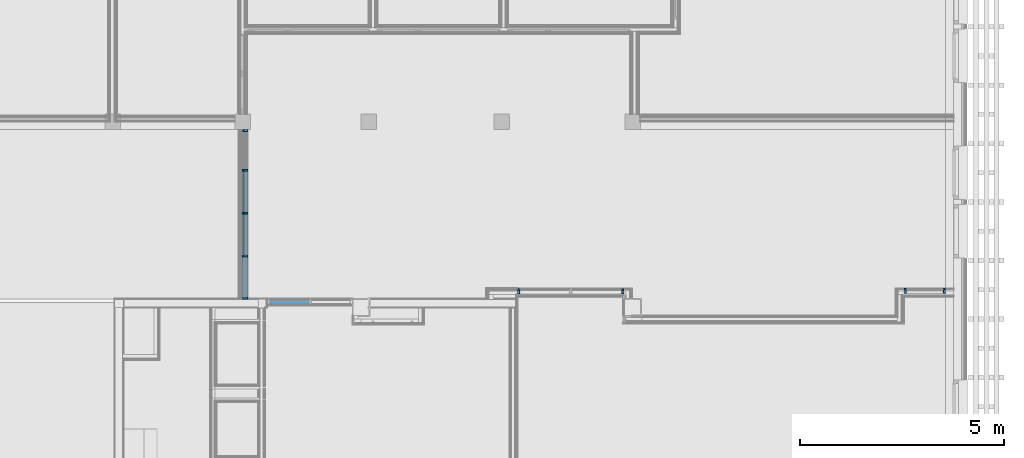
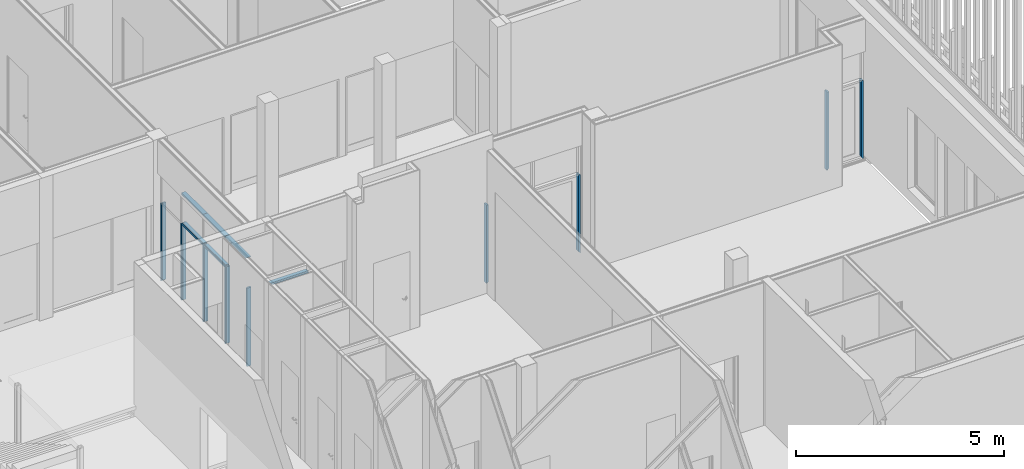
# One storey, part 30 of 260: 15 members, 4 elements without a shape of their own.
"""IFC2X3 building model written with IfcOpenShell, lengths in millimetres."""

from ifc_helpers import new_model, entity, si_unit, converted_unit, derived_unit, money_unit, direction, frame, origin_with_axes, place, context, subcontext, project, spatial, faceted_brep, source, transform, mapped, material, type_object, element, aggregate, save


model = new_model("IFC2X3")

# Units and contexts
model_context = context("Model", 3, precision=0.01, world=origin_with_axes(), true_north=direction((0.0, 1.0)))
body_context = subcontext(model_context, "Body", "Model", "MODEL_VIEW")
ifc_project = project(units=[si_unit("LENGTHUNIT", "METRE", prefix="MILLI"), si_unit("AREAUNIT", "SQUARE_METRE"), si_unit("VOLUMEUNIT", "CUBIC_METRE"), converted_unit("PLANEANGLEUNIT", "DEGREE", entity("IfcPlaneAngleMeasure", 0.0174532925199), si_unit("PLANEANGLEUNIT", "RADIAN"), dimensions=[0, 0, 0, 0, 0, 0, 0]), money_unit("EUR"), converted_unit("TIMEUNIT", "Year", entity("IfcTimeMeasure", 31556926.0), si_unit("TIMEUNIT", "SECOND"), dimensions=[0, 0, 1, 0, 0, 0, 0]), si_unit("MASSUNIT", "GRAM", prefix="KILO"), si_unit("THERMODYNAMICTEMPERATUREUNIT", "DEGREE_CELSIUS"), si_unit("LUMINOUSINTENSITYUNIT", "LUMEN"), si_unit("ENERGYUNIT", "JOULE", prefix="MEGA"), derived_unit("THERMALCONDUCTANCEUNIT", [(si_unit("POWERUNIT", "WATT"), 1), (si_unit("LENGTHUNIT", "METRE"), -1), (si_unit("THERMODYNAMICTEMPERATUREUNIT", "KELVIN"), -1)]), derived_unit("SPECIFICHEATCAPACITYUNIT", [(si_unit("ENERGYUNIT", "JOULE"), 1), (si_unit("MASSUNIT", "GRAM", prefix="KILO"), -1), (si_unit("THERMODYNAMICTEMPERATUREUNIT", "KELVIN"), -1)]), derived_unit("MASSDENSITYUNIT", [(si_unit("MASSUNIT", "GRAM", prefix="KILO"), 1), (si_unit("VOLUMEUNIT", "CUBIC_METRE"), -1)])], contexts=[model_context])

# Site, building, storey
site_placement = place(None, origin_with_axes())
site = spatial("IfcSite", under=ifc_project, at=site_placement, Name="Kolde pst 67a", CompositionType="ELEMENT")
building_placement = place(site_placement, origin_with_axes())
building = spatial("IfcBuilding", under=site, at=building_placement, Name="Riigigümnaasium", CompositionType="ELEMENT")
storey_placement = place(building_placement, origin_with_axes())
storey = spatial("IfcBuildingStorey", under=building, at=storey_placement, Name="1. korrus", CompositionType="ELEMENT", Elevation=0.0)

# Curtain wall, member
curtain_wall_type = type_object("IfcCurtainWallType", Name="Curtain Wall Type", PredefinedType="NOTDEFINED")
curtain_wall_1_placement = place(storey_placement, frame((67073.6436674, 24969.9980242, -4.39663916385e-06), z_axis=(0.0, 0.0, 1.0), x_axis=(1.0, 0.0, 0.0)))
curtain_wall_1 = element("IfcCurtainWall", 1, at=curtain_wall_1_placement, inside=storey, type_object=curtain_wall_type, Name="KLAASSEIN")
ifc_material = material(Name="_METALL - alumiinium")
member_type_1 = type_object("IfcMemberType", Name="Boundary Frame 50 x 120", PredefinedType="MEMBER")
shared_shape_1 = source(origin_with_axes(), body_context, "Body", "Brep", [
    faceted_brep([(30.0, 10.0, 30.0), (30.0, 10.0, 2300.0), (30.0, -10.0, 2300.0), (30.0, -10.0, 30.0), (20.0, 10.0, 20.0), (20.0, 10.0, 2300.0), (20.0, -10.0, 2300.0), (20.0, -10.0, 20.0)], [[[0, 1, 2, 3]], [[4, 5, 1, 0]], [[2, 1, 5, 6]], [[3, 2, 6, 7]], [[3, 7, 4, 0]], [[7, 6, 5, 4]]]),
    faceted_brep([(20.0, 10.0, 20.0), (20.0, 10.0, 2300.0), (20.0, -10.0, 2300.0), (20.0, -10.0, 20.0), (0.0, 10.0, 0.0), (0.0, 10.0, 2300.0), (0.0, -10.0, 2300.0), (0.0, -10.0, 0.0)], [[[0, 1, 2, 3]], [[4, 5, 1, 0]], [[2, 1, 5, 6]], [[3, 2, 6, 7]], [[3, 7, 4, 0]], [[7, 6, 5, 4]]]),
    faceted_brep([(50.0, -10.0, 50.0), (50.0, -10.0, 2300.0), (50.0, -100.0, 2300.0), (50.0, -100.0, 50.0), (0.0, -10.0, 0.0), (0.0, -10.0, 2300.0), (0.0, -100.0, 2300.0), (0.0, -100.0, 0.0)], [[[0, 1, 2, 3]], [[4, 5, 1, 0]], [[2, 1, 5, 6]], [[3, 2, 6, 7]], [[3, 7, 4, 0]], [[7, 6, 5, 4]]]),
    faceted_brep([(0.0, 10.0, 0.0), (0.0, 10.0, 2300.0), (0.0, 20.0, 2300.0), (0.0, 20.0, 0.0), (50.0, 10.0, 50.0), (50.0, 10.0, 2300.0), (50.0, 20.0, 2300.0), (50.0, 20.0, 50.0)], [[[0, 1, 2, 3]], [[4, 5, 1, 0]], [[2, 1, 5, 6]], [[3, 2, 6, 7]], [[3, 7, 4, 0]], [[7, 6, 5, 4]]]),
])
member_1_placement = place(curtain_wall_1_placement, frame((0.0, -525.0, -5.61735502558e-06), z_axis=(0.0, 0.0, 1.0), x_axis=(0.0, -1.0, 0.0)))
member_1 = element("IfcMember", 2, at=member_1_placement, type_object=member_type_1, material=ifc_material, Name="RF RAAM SERV-019", ObjectType="MEMBER", context=body_context, shape_type="MappedRepresentation", body=[
    mapped(shared_shape_1, transform((0.0, 0.0, 0.0), x_axis=(-1.0, 0.0, 0.0), y_axis=(0.0, -1.0, 0.0), z_axis=(0.0, 0.0, 1.0))),
])

curtain_wall_2_placement = place(storey_placement, frame((75080.0012187, 24675.0981117, -4.39663905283e-06), z_axis=(0.0, 0.0, 1.0), x_axis=(1.0, 0.0, 0.0)))
curtain_wall_2 = element("IfcCurtainWall", 3, at=curtain_wall_2_placement, inside=storey, type_object=curtain_wall_type, Name="KLAASSEIN")
member_2_placement = place(curtain_wall_2_placement, frame((-1300.00168867, 0.0, 0.0), z_axis=(0.0, 0.0, 1.0), x_axis=(1.0, 0.0, 0.0)))
member_2 = element("IfcMember", 4, at=member_2_placement, type_object=member_type_1, material=ifc_material, Name="RF RAAM SERV-099", ObjectType="MEMBER", context=body_context, shape_type="MappedRepresentation", body=[
    mapped(shared_shape_1, transform((0.0, 0.0, 0.0))),
])

curtain_wall_3_placement = place(storey_placement, frame((83735.0006955, 24688.0768619, -4.19329628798e-05), z_axis=(0.0, 0.0, 1.0), x_axis=(1.0, 0.0, 0.0)))
curtain_wall_3 = element("IfcCurtainWall", 5, at=curtain_wall_3_placement, inside=storey, type_object=curtain_wall_type, Name="KLAASSEIN")
member_3_placement = place(curtain_wall_3_placement, frame((-504.998632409, 0.0, 3.7536323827e-05), z_axis=(0.0, 0.0, 1.0), x_axis=(1.0, 0.0, 0.0)))
member_3 = element("IfcMember", 6, at=member_3_placement, type_object=member_type_1, material=ifc_material, Name="RF RAAM SERV-098", ObjectType="MEMBER", context=body_context, shape_type="MappedRepresentation", body=[
    mapped(shared_shape_1, transform((0.0, 0.0, 0.0))),
])

# Member
member_type_2 = type_object("IfcMemberType", Name="Transom Frame 50 x 125", PredefinedType="MEMBER")
shared_shape_2 = source(origin_with_axes(), body_context, "Body", "Brep", [
    faceted_brep([(-5.0, 10.0, 25.0), (-5.0, -10.0, 25.0), (-5.0, -10.0, 1025.0), (-5.0, 10.0, 1025.0), (5.0, 10.0, 25.0), (5.0, -10.0, 25.0), (5.0, -10.0, 1025.0), (5.0, 10.0, 1025.0)], [[[0, 1, 2, 3]], [[1, 0, 4, 5]], [[1, 5, 6, 2]], [[2, 6, 7, 3]], [[4, 0, 3, 7]], [[5, 4, 7, 6]]]),
    faceted_brep([(-25.0, -10.0, 25.0), (-25.0, -100.0, 25.0), (-25.0, -100.0, 1025.0), (-25.0, -10.0, 1025.0), (25.0, -10.0, 25.0), (25.0, -100.0, 25.0), (25.0, -100.0, 1025.0), (25.0, -10.0, 1025.0)], [[[0, 1, 2, 3]], [[1, 0, 4, 5]], [[1, 5, 6, 2]], [[2, 6, 7, 3]], [[4, 0, 3, 7]], [[5, 4, 7, 6]]]),
    faceted_brep([(25.0, 10.0, 25.0), (25.0, 25.0, 25.0), (25.0, 25.0, 1025.0), (25.0, 10.0, 1025.0), (-25.0, 10.0, 25.0), (-25.0, 25.0, 25.0), (-25.0, 25.0, 1025.0), (-25.0, 10.0, 1025.0)], [[[0, 1, 2, 3]], [[1, 0, 4, 5]], [[1, 5, 6, 2]], [[2, 6, 7, 3]], [[4, 0, 3, 7]], [[5, 4, 7, 6]]]),
])
member_4_placement = place(curtain_wall_1_placement, frame((0.0, 525.0, 2299.99999438), z_axis=(0.0, 1.0, 0.0), x_axis=(0.0, 0.0, 1.0)))
member_4 = element("IfcMember", 7, at=member_4_placement, type_object=member_type_2, material=ifc_material, Name="RF RAAM HOR-371", ObjectType="MEMBER", context=body_context, shape_type="MappedRepresentation", body=[
    mapped(shared_shape_2, transform((0.0, 0.0, 0.0), x_axis=(-1.0, 0.0, 0.0), y_axis=(0.0, -1.0, 0.0), z_axis=(0.0, 0.0, 1.0))),
])

member_5_placement = place(curtain_wall_1_placement, frame((0.0, 1575.0, 2299.99999438), z_axis=(0.0, 1.0, 0.0), x_axis=(0.0, 0.0, 1.0)))
member_5 = element("IfcMember", 8, at=member_5_placement, type_object=member_type_2, material=ifc_material, Name="RF RAAM HOR-370", ObjectType="MEMBER", context=body_context, shape_type="MappedRepresentation", body=[
    mapped(shared_shape_2, transform((0.0, 0.0, 0.0), x_axis=(-1.0, 0.0, 0.0), y_axis=(0.0, -1.0, 0.0), z_axis=(0.0, 0.0, 1.0))),
])

member_type_3 = type_object("IfcMemberType", Name="Mullion Frame 50 x 125", PredefinedType="MEMBER")
shared_shape_3 = source(origin_with_axes(), body_context, "Body", "Brep", [
    faceted_brep([(-5.0, 10.0, 50.0), (-5.0, -10.0, 50.0), (-5.0, -10.0, 2300.0), (-5.0, 10.0, 2300.0), (5.0, 10.0, 50.0), (5.0, -10.0, 50.0), (5.0, -10.0, 2300.0), (5.0, 10.0, 2300.0)], [[[0, 1, 2, 3]], [[1, 0, 4, 5]], [[1, 5, 6, 2]], [[2, 6, 7, 3]], [[4, 0, 3, 7]], [[5, 4, 7, 6]]]),
    faceted_brep([(-25.0, -10.0, 50.0), (-25.0, -100.0, 50.0), (-25.0, -100.0, 2300.0), (-25.0, -10.0, 2300.0), (25.0, -10.0, 50.0), (25.0, -100.0, 50.0), (25.0, -100.0, 2300.0), (25.0, -10.0, 2300.0)], [[[0, 1, 2, 3]], [[1, 0, 4, 5]], [[1, 5, 6, 2]], [[2, 6, 7, 3]], [[4, 0, 3, 7]], [[5, 4, 7, 6]]]),
    faceted_brep([(25.0, 10.0, 50.0), (25.0, 25.0, 50.0), (25.0, 25.0, 2300.0), (25.0, 10.0, 2300.0), (-25.0, 10.0, 50.0), (-25.0, 25.0, 50.0), (-25.0, 25.0, 2300.0), (-25.0, 10.0, 2300.0)], [[[0, 1, 2, 3]], [[1, 0, 4, 5]], [[1, 5, 6, 2]], [[2, 6, 7, 3]], [[4, 0, 3, 7]], [[5, 4, 7, 6]]]),
])
member_6_placement = place(curtain_wall_1_placement, frame((0.0, 525.0, -5.61735502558e-06), z_axis=(0.0, 0.0, 1.0), x_axis=(0.0, -1.0, 0.0)))
member_6 = element("IfcMember", 9, at=member_6_placement, type_object=member_type_3, material=ifc_material, Name="RF RAAM VERT-294", ObjectType="MEMBER", context=body_context, shape_type="MappedRepresentation", body=[
    mapped(shared_shape_3, transform((0.0, 0.0, 0.0), x_axis=(-1.0, 0.0, 0.0), y_axis=(0.0, -1.0, 0.0), z_axis=(0.0, 0.0, 1.0))),
])

member_7_placement = place(curtain_wall_1_placement, frame((0.0, 1575.0, -5.61735502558e-06), z_axis=(0.0, 0.0, 1.0), x_axis=(0.0, -1.0, 0.0)))
member_7 = element("IfcMember", 10, at=member_7_placement, type_object=member_type_3, material=ifc_material, Name="RF RAAM VERT-295", ObjectType="MEMBER", context=body_context, shape_type="MappedRepresentation", body=[
    mapped(shared_shape_3, transform((0.0, 0.0, 0.0), x_axis=(-1.0, 0.0, 0.0), y_axis=(0.0, -1.0, 0.0), z_axis=(0.0, 0.0, 1.0))),
])

member_8_placement = place(curtain_wall_1_placement, frame((0.0, 2625.0, -5.61735502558e-06), z_axis=(0.0, 0.0, 1.0), x_axis=(0.0, -1.0, 0.0)))
member_8 = element("IfcMember", 11, at=member_8_placement, type_object=member_type_3, material=ifc_material, Name="RF RAAM VERT-340", ObjectType="MEMBER", context=body_context, shape_type="MappedRepresentation", body=[
    mapped(shared_shape_3, transform((0.0, 0.0, 0.0), x_axis=(-1.0, 0.0, 0.0), y_axis=(0.0, -1.0, 0.0), z_axis=(0.0, 0.0, 1.0))),
])

shared_shape_4 = source(origin_with_axes(), body_context, "Body", "Brep", [
    faceted_brep([(-30.0, 10.0, 30.0), (-30.0, -10.0, 30.0), (-30.0, -10.0, 2300.0), (-30.0, 10.0, 2300.0), (-20.0, 10.0, 20.0), (-20.0, -10.0, 20.0), (-20.0, -10.0, 2300.0), (-20.0, 10.0, 2300.0)], [[[0, 1, 2, 3]], [[1, 0, 4, 5]], [[1, 5, 6, 2]], [[2, 6, 7, 3]], [[4, 0, 3, 7]], [[5, 4, 7, 6]]]),
    faceted_brep([(-20.0, 10.0, 20.0), (-20.0, -10.0, 20.0), (-20.0, -10.0, 2300.0), (-20.0, 10.0, 2300.0), (0.0, 10.0, 0.0), (0.0, -10.0, 0.0), (0.0, -10.0, 2300.0), (0.0, 10.0, 2300.0)], [[[0, 1, 2, 3]], [[1, 0, 4, 5]], [[1, 5, 6, 2]], [[2, 6, 7, 3]], [[4, 0, 3, 7]], [[5, 4, 7, 6]]]),
    faceted_brep([(-50.0, -10.0, 50.0), (-50.0, -100.0, 50.0), (-50.0, -100.0, 2300.0), (-50.0, -10.0, 2300.0), (0.0, -10.0, 0.0), (0.0, -100.0, 0.0), (0.0, -100.0, 2300.0), (0.0, -10.0, 2300.0)], [[[0, 1, 2, 3]], [[1, 0, 4, 5]], [[1, 5, 6, 2]], [[2, 6, 7, 3]], [[4, 0, 3, 7]], [[5, 4, 7, 6]]]),
    faceted_brep([(0.0, 10.0, 0.0), (0.0, 20.0, 0.0), (0.0, 20.0, 2300.0), (0.0, 10.0, 2300.0), (-50.0, 10.0, 50.0), (-50.0, 20.0, 50.0), (-50.0, 20.0, 2300.0), (-50.0, 10.0, 2300.0)], [[[0, 1, 2, 3]], [[1, 0, 4, 5]], [[1, 5, 6, 2]], [[2, 6, 7, 3]], [[4, 0, 3, 7]], [[5, 4, 7, 6]]]),
])
member_9_placement = place(curtain_wall_1_placement, frame((0.0, 3620.0016397, -5.61735502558e-06), z_axis=(0.0, 0.0, 1.0), x_axis=(0.0, -1.0, 0.0)))
member_9 = element("IfcMember", 12, at=member_9_placement, type_object=member_type_1, material=ifc_material, Name="RF RAAM SERV-012", ObjectType="MEMBER", context=body_context, shape_type="MappedRepresentation", body=[
    mapped(shared_shape_4, transform((0.0, 0.0, 0.0), x_axis=(-1.0, 0.0, 0.0), y_axis=(0.0, -1.0, 0.0), z_axis=(0.0, 0.0, 1.0))),
])

member_10_placement = place(curtain_wall_2_placement, frame((1300.00084434, 0.0, 0.0), z_axis=(0.0, 0.0, 1.0), x_axis=(1.0, 0.0, 0.0)))
member_10 = element("IfcMember", 13, at=member_10_placement, type_object=member_type_1, material=ifc_material, Name="RF RAAM SERV-104", ObjectType="MEMBER", context=body_context, shape_type="MappedRepresentation", body=[
    mapped(shared_shape_4, transform((0.0, 0.0, 0.0))),
])

aggregate(curtain_wall_2, [member_10, member_2])

member_11_placement = place(curtain_wall_3_placement, frame((504.998632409, 0.0, 3.7536323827e-05), z_axis=(0.0, 0.0, 1.0), x_axis=(1.0, 0.0, 0.0)))
member_11 = element("IfcMember", 14, at=member_11_placement, type_object=member_type_1, material=ifc_material, Name="RF RAAM SERV-102", ObjectType="MEMBER", context=body_context, shape_type="MappedRepresentation", body=[
    mapped(shared_shape_4, transform((0.0, 0.0, 0.0))),
])

aggregate(curtain_wall_3, [member_11, member_3])

shared_shape_5 = source(origin_with_axes(), body_context, "Body", "Brep", [
    faceted_brep([(30.0, 10.0, 30.0), (30.0, 10.0, 1050.0), (30.0, -10.0, 1050.0), (30.0, -10.0, 30.0), (20.0, 10.0, 20.0), (20.0, 10.0, 1050.0), (20.0, -10.0, 1050.0), (20.0, -10.0, 20.0)], [[[0, 1, 2, 3]], [[4, 5, 1, 0]], [[2, 1, 5, 6]], [[3, 2, 6, 7]], [[3, 7, 4, 0]], [[7, 6, 5, 4]]]),
    faceted_brep([(20.0, 10.0, 20.0), (20.0, 10.0, 1050.0), (20.0, -10.0, 1050.0), (20.0, -10.0, 20.0), (0.0, 10.0, 0.0), (0.0, 10.0, 1050.0), (0.0, -10.0, 1050.0), (0.0, -10.0, 0.0)], [[[0, 1, 2, 3]], [[4, 5, 1, 0]], [[2, 1, 5, 6]], [[3, 2, 6, 7]], [[3, 7, 4, 0]], [[7, 6, 5, 4]]]),
    faceted_brep([(50.0, -10.0, 50.0), (50.0, -10.0, 1050.0), (50.0, -100.0, 1050.0), (50.0, -100.0, 50.0), (0.0, -10.0, 0.0), (0.0, -10.0, 1050.0), (0.0, -100.0, 1050.0), (0.0, -100.0, 0.0)], [[[0, 1, 2, 3]], [[4, 5, 1, 0]], [[2, 1, 5, 6]], [[3, 2, 6, 7]], [[3, 7, 4, 0]], [[7, 6, 5, 4]]]),
    faceted_brep([(0.0, 10.0, 0.0), (0.0, 10.0, 1050.0), (0.0, 20.0, 1050.0), (0.0, 20.0, 0.0), (50.0, 10.0, 50.0), (50.0, 10.0, 1050.0), (50.0, 20.0, 1050.0), (50.0, 20.0, 50.0)], [[[0, 1, 2, 3]], [[4, 5, 1, 0]], [[2, 1, 5, 6]], [[3, 2, 6, 7]], [[3, 7, 4, 0]], [[7, 6, 5, 4]]]),
])
member_12_placement = place(curtain_wall_1_placement, frame((0.0, -525.0, 3199.99999078), z_axis=(0.0, 1.0, 0.0), x_axis=(0.0, 0.0, 1.0)))
member_12 = element("IfcMember", 15, at=member_12_placement, type_object=member_type_1, material=ifc_material, Name="RF RAAM SERV-017", ObjectType="MEMBER", context=body_context, shape_type="MappedRepresentation", body=[
    mapped(shared_shape_5, transform((0.0, 0.0, 0.0), x_axis=(-1.0, 0.0, 0.0), y_axis=(0.0, -1.0, 0.0), z_axis=(0.0, 0.0, 1.0))),
])

# Curtain wall, member
curtain_wall_4_placement = place(storey_placement, frame((68175.8878955, 24430.0011103, -4.39663905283e-06), z_axis=(0.0, 0.0, 1.0), x_axis=(1.0, 0.0, 0.0)))
curtain_wall_4 = element("IfcCurtainWall", 16, at=curtain_wall_4_placement, inside=storey, type_object=curtain_wall_type, Name="KLAASSEIN")
member_13_placement = place(curtain_wall_4_placement, frame((-525.0, 0.000381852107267, 2300.0), z_axis=(1.0, -7.27337343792e-07, 0.0), x_axis=(0.0, 0.0, 1.0)))
member_13 = element("IfcMember", 17, at=member_13_placement, type_object=member_type_1, material=ifc_material, Name="RF RAAM SERV-061", ObjectType="MEMBER", context=body_context, shape_type="MappedRepresentation", body=[
    mapped(shared_shape_5, transform((0.0, 0.0, 0.0), x_axis=(-1.0, 0.0, 0.0), y_axis=(0.0, -1.0, 0.0), z_axis=(0.0, 0.0, 1.0))),
])
aggregate(curtain_wall_4, [member_13])

# Member
shared_shape_6 = source(origin_with_axes(), body_context, "Body", "Brep", [
    faceted_brep([(30.0, -10.0, 0.0), (30.0, 10.0, 0.0), (30.0, 10.0, 1050.0), (30.0, -10.0, 1050.0), (20.0, -10.0, 0.0), (20.0, 10.0, 0.0), (20.0, 10.0, 1050.0), (20.0, -10.0, 1050.0)], [[[0, 1, 2, 3]], [[0, 4, 5, 1]], [[1, 5, 6, 2]], [[3, 2, 6, 7]], [[4, 0, 3, 7]], [[5, 4, 7, 6]]]),
    faceted_brep([(20.0, -10.0, 0.0), (20.0, 10.0, 0.0), (20.0, 10.0, 1050.0), (20.0, -10.0, 1050.0), (0.0, -10.0, 0.0), (0.0, 10.0, 0.0), (0.0, 10.0, 1050.0), (0.0, -10.0, 1050.0)], [[[0, 1, 2, 3]], [[0, 4, 5, 1]], [[1, 5, 6, 2]], [[3, 2, 6, 7]], [[4, 0, 3, 7]], [[5, 4, 7, 6]]]),
    faceted_brep([(50.0, -100.0, 0.0), (50.0, -10.0, 0.0), (50.0, -10.0, 1050.0), (50.0, -100.0, 1050.0), (0.0, -100.0, 0.0), (0.0, -10.0, 0.0), (0.0, -10.0, 1050.0), (0.0, -100.0, 1050.0)], [[[0, 1, 2, 3]], [[0, 4, 5, 1]], [[1, 5, 6, 2]], [[3, 2, 6, 7]], [[4, 0, 3, 7]], [[5, 4, 7, 6]]]),
    faceted_brep([(0.0, 20.0, 0.0), (0.0, 10.0, 0.0), (0.0, 10.0, 1050.0), (0.0, 20.0, 1050.0), (50.0, 20.0, 0.0), (50.0, 10.0, 0.0), (50.0, 10.0, 1050.0), (50.0, 20.0, 1050.0)], [[[0, 1, 2, 3]], [[0, 4, 5, 1]], [[1, 5, 6, 2]], [[3, 2, 6, 7]], [[4, 0, 3, 7]], [[5, 4, 7, 6]]]),
])
member_14_placement = place(curtain_wall_1_placement, frame((0.0, 525.0, 3199.99999078), z_axis=(0.0, 1.0, 0.0), x_axis=(0.0, 0.0, 1.0)))
member_14 = element("IfcMember", 18, at=member_14_placement, type_object=member_type_1, material=ifc_material, Name="RF RAAM SERV-016", ObjectType="MEMBER", context=body_context, shape_type="MappedRepresentation", body=[
    mapped(shared_shape_6, transform((0.0, 0.0, 0.0), x_axis=(-1.0, 0.0, 0.0), y_axis=(0.0, -1.0, 0.0), z_axis=(0.0, 0.0, 1.0))),
])

member_15_placement = place(curtain_wall_1_placement, frame((0.0, 1575.0, 3199.99999078), z_axis=(0.0, 1.0, 0.0), x_axis=(0.0, 0.0, 1.0)))
member_15 = element("IfcMember", 19, at=member_15_placement, type_object=member_type_1, material=ifc_material, Name="RF RAAM SERV-015", ObjectType="MEMBER", context=body_context, shape_type="MappedRepresentation", body=[
    mapped(shared_shape_6, transform((0.0, 0.0, 0.0), x_axis=(-1.0, 0.0, 0.0), y_axis=(0.0, -1.0, 0.0), z_axis=(0.0, 0.0, 1.0))),
])

aggregate(curtain_wall_1, [member_1, member_4, member_6, member_5, member_7, member_8, member_9, member_12, member_14, member_15])

save(model, "model.ifc")
